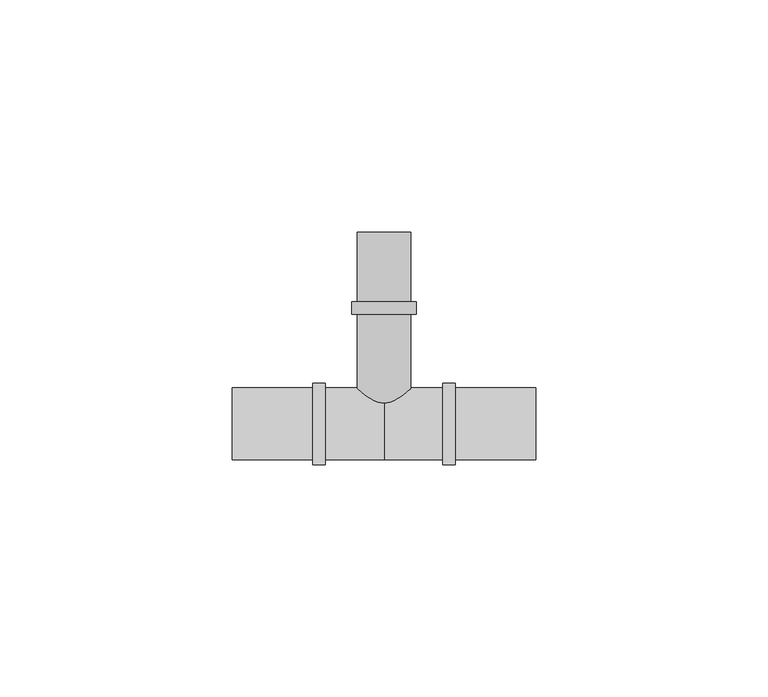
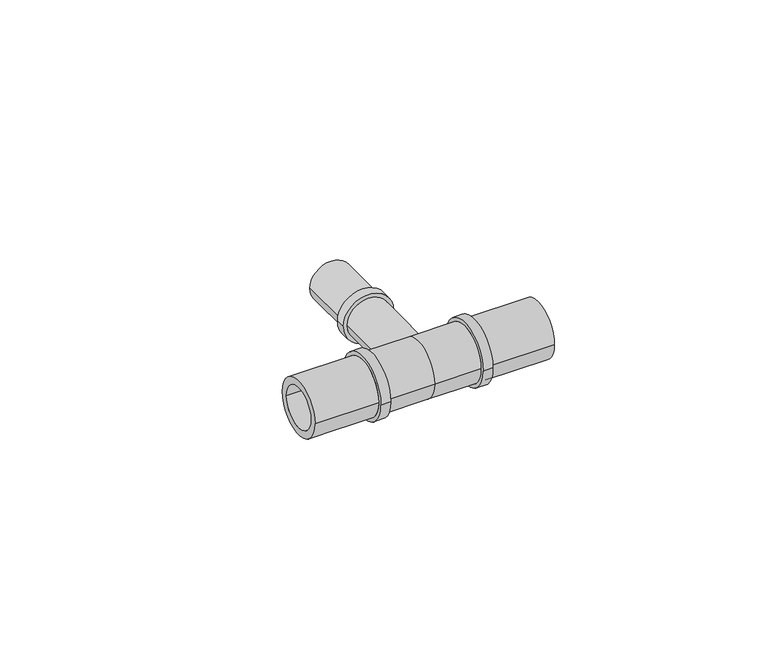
"""IFC4 building model written with IfcOpenShell, lengths in millimetres: pipe fitting geometry, FASTLOC_T-piece_LX : FSL T-Piece LX PL."""

from ifc_helpers import new_model, si_unit, frame, origin, place, context, project, spatial, polyline, circle_curve, source, transform, mapped, element, save
from ifc_brep_helpers import plane_surface, cylinder_surface, revolved_surface, advanced_brep


def pipe_fitting_790cff28(model_context):
    return source(origin(), model_context, "Body", "AdvancedBrep", [
        advanced_brep(
        [(3.95, 41.3, 0.0), (-3.95, 41.3, 0.0), (-3.95, 0.0, 0.0), (3.95, 0.0, 0.0), (5.8, 0.0, 0.0), (-5.8, 0.0, 0.0), (-5.8, 23.59, 0.0), (5.8, 23.59, 0.0), (6.9, 23.59, 0.0), (-6.9, 23.59, 0.0), (-6.9, 26.3, 0.0), (6.9, 26.3, 0.0), (5.8, 26.3, 0.0), (-5.8, 26.3, 0.0), (-5.8, 41.3, 0.0), (5.8, 41.3, 0.0)],
        [
            (0, 1, circle_curve(frame((0.0, 41.3, 0.0), z_axis=(0.0, 1.0, 0.0), x_axis=(-1.0, 0.0, 0.0)), 3.95)),
            (1, 2),
            (2, 3, circle_curve(frame((0.0, 0.0, 0.0), z_axis=(0.0, -1.0, 0.0), x_axis=(-1.0, 0.0, 0.0)), 3.95)),
            (3, 0),
            (4, 5, circle_curve(frame((0.0, 0.0, 0.0), z_axis=(0.0, 1.0, 0.0), x_axis=(-1.0, 0.0, 0.0)), 5.8)),
            (5, 6),
            (6, 7, circle_curve(frame((0.0, 23.59, 0.0), z_axis=(0.0, -1.0, 0.0), x_axis=(-1.0, 0.0, 0.0)), 5.8)),
            (7, 4),
            (8, 9, circle_curve(frame((0.0, 23.59, 0.0), z_axis=(0.0, 1.0, 0.0), x_axis=(-1.0, 0.0, 0.0)), 6.9)),
            (9, 10),
            (10, 11, circle_curve(frame((0.0, 26.3, 0.0), z_axis=(0.0, -1.0, 0.0), x_axis=(-1.0, 0.0, 0.0)), 6.9)),
            (11, 8),
            (12, 13, circle_curve(frame((0.0, 26.3, 0.0), z_axis=(0.0, 1.0, 0.0), x_axis=(-1.0, 0.0, 0.0)), 5.8)),
            (13, 14),
            (14, 15, circle_curve(frame((0.0, 41.3, 0.0), z_axis=(0.0, -1.0, 0.0), x_axis=(-1.0, 0.0, 0.0)), 5.8)),
            (15, 12),
            (1, 0, circle_curve(frame((0.0, 41.3, 0.0), z_axis=(0.0, 1.0, 0.0), x_axis=(1.0, 0.0, 0.0)), 3.95)),
            (3, 2, circle_curve(frame((0.0, 0.0, 0.0), z_axis=(0.0, -1.0, 0.0), x_axis=(1.0, 0.0, 0.0)), 3.95)),
            (4, 5, circle_curve(frame((0.0, 0.0, 0.0), z_axis=(0.0, -1.0, 0.0), x_axis=(1.0, 0.0, 0.0)), 5.8)),
            (7, 6, circle_curve(frame((0.0, 23.59, 0.0), z_axis=(0.0, -1.0, 0.0), x_axis=(1.0, 0.0, 0.0)), 5.8)),
            (8, 9, circle_curve(frame((0.0, 23.59, 0.0), z_axis=(0.0, -1.0, 0.0), x_axis=(1.0, 0.0, 0.0)), 6.9)),
            (11, 10, circle_curve(frame((0.0, 26.3, 0.0), z_axis=(0.0, -1.0, 0.0), x_axis=(1.0, 0.0, 0.0)), 6.9)),
            (12, 13, circle_curve(frame((0.0, 26.3, 0.0), z_axis=(0.0, -1.0, 0.0), x_axis=(1.0, 0.0, 0.0)), 5.8)),
            (15, 14, circle_curve(frame((0.0, 41.3, 0.0), z_axis=(0.0, -1.0, 0.0), x_axis=(1.0, 0.0, 0.0)), 5.8)),
        ],
        [
            revolved_surface(polyline([(-3.95, 0.0, 0.0), (-3.95, 41.3, 0.0)]), (0.0, 0.0, 0.0), (0.0, -1.0, 0.0)),
            cylinder_surface(frame((0.0, 0.0, 0.0), z_axis=(0.0, -1.0, 0.0), x_axis=(-1.0, 0.0, 0.0)), 5.8),
            cylinder_surface(frame((0.0, 0.0, 0.0), z_axis=(0.0, -1.0, 0.0), x_axis=(-1.0, 0.0, 0.0)), 6.9),
            revolved_surface(polyline([(3.95, 0.0, 0.0), (3.95, 41.3, 0.0)]), (0.0, 0.0, 0.0), (0.0, -1.0, 0.0)),
            plane_surface(frame((0.0, 0.0, 0.0), z_axis=(0.0, -1.0, 0.0), x_axis=(1.0, 0.0, 0.0))),
            cylinder_surface(frame((0.0, 0.0, 0.0), z_axis=(0.0, -1.0, 0.0), x_axis=(1.0, 0.0, 0.0)), 5.8),
            plane_surface(frame((0.0, 23.59, 0.0), z_axis=(0.0, -1.0, 0.0), x_axis=(1.0, 0.0, 0.0))),
            cylinder_surface(frame((0.0, 0.0, 0.0), z_axis=(0.0, -1.0, 0.0), x_axis=(1.0, 0.0, 0.0)), 6.9),
            plane_surface(frame((0.0, 26.3, 0.0), z_axis=(0.0, 1.0, 0.0), x_axis=(1.0, 0.0, 0.0))),
            plane_surface(frame((0.0, 41.3, 0.0), z_axis=(0.0, 1.0, 0.0), x_axis=(1.0, 0.0, 0.0))),
        ],
        [
            (0, [[1, 2, 3, 4]]),
            (1, [[5, 6, 7, 8]]),
            (2, [[9, 10, 11, 12]]),
            (1, [[13, 14, 15, 16]]),
            (3, [[17, -4, 18, -2]]),
            (4, [[19, -5], [-18, -3]]),
            (5, [[-19, -8, 20, -6]]),
            (6, [[21, -9], [-20, -7]]),
            (7, [[-21, -12, 22, -10]]),
            (8, [[-22, -11], [23, -13]]),
            (5, [[-23, -16, 24, -14]]),
            (9, [[-24, -15], [-17, -1]]),
        ],
    ),
        advanced_brep(
        [(0.0, 7.75, 0.0), (0.0, -7.75, 0.0), (-12.63, -7.75, 0.0), (-12.63, 7.75, 0.0), (12.63, 7.75, 0.0), (12.63, -7.75, 0.0), (15.3, 8.8, 0.0), (15.3, -8.8, 0.0), (12.63, -8.8, 0.0), (12.63, 8.8, 0.0), (32.7, 7.75, 0.0), (32.7, -7.75, 0.0), (15.3, -7.75, 0.0), (15.3, 7.75, 0.0), (-15.3, 7.75, 0.0), (-15.3, -7.75, 0.0), (-32.7, -7.75, 0.0), (-32.7, 7.75, 0.0), (-12.63, 8.8, 0.0), (-12.63, -8.8, 0.0), (-15.3, -8.8, 0.0), (-15.3, 8.8, 0.0), (32.7, -5.75, 0.0), (32.7, 5.75, 0.0), (-32.7, 5.75, 0.0), (-32.7, -5.75, 0.0), (0.0, 5.75, 0.0), (0.0, -5.75, 0.0)],
        [
            (0, 1, circle_curve(frame((0.0, 0.0, 0.0), z_axis=(-1.0, 0.0, 0.0), x_axis=(0.0, -1.0, 0.0)), 7.75)),
            (1, 2),
            (2, 3, circle_curve(frame((-12.63, 0.0, 0.0), z_axis=(1.0, 0.0, 0.0), x_axis=(0.0, -1.0, 0.0)), 7.75)),
            (3, 0),
            (4, 5, circle_curve(frame((12.63, 0.0, 0.0), z_axis=(-1.0, 0.0, 0.0), x_axis=(0.0, -1.0, 0.0)), 7.75)),
            (5, 1),
            (0, 4),
            (6, 7, circle_curve(frame((15.3, 0.0, 0.0), z_axis=(-1.0, 0.0, 0.0), x_axis=(0.0, -1.0, 0.0)), 8.8)),
            (7, 8),
            (8, 9, circle_curve(frame((12.63, 0.0, 0.0), z_axis=(1.0, 0.0, 0.0), x_axis=(0.0, -1.0, 0.0)), 8.8)),
            (9, 6),
            (10, 11, circle_curve(frame((32.7, 0.0, 0.0), z_axis=(-1.0, 0.0, 0.0), x_axis=(0.0, -1.0, 0.0)), 7.75)),
            (11, 12),
            (12, 13, circle_curve(frame((15.3, 0.0, 0.0), z_axis=(1.0, 0.0, 0.0), x_axis=(0.0, -1.0, 0.0)), 7.75)),
            (13, 10),
            (14, 15, circle_curve(frame((-15.3, 0.0, 0.0), z_axis=(-1.0, 0.0, 0.0), x_axis=(0.0, -1.0, 0.0)), 7.75)),
            (15, 16),
            (16, 17, circle_curve(frame((-32.7, 0.0, 0.0), z_axis=(1.0, 0.0, 0.0), x_axis=(0.0, -1.0, 0.0)), 7.75)),
            (17, 14),
            (18, 19, circle_curve(frame((-12.63, 0.0, 0.0), z_axis=(-1.0, 0.0, 0.0), x_axis=(0.0, -1.0, 0.0)), 8.8)),
            (19, 20),
            (20, 21, circle_curve(frame((-15.3, 0.0, 0.0), z_axis=(1.0, 0.0, 0.0), x_axis=(0.0, -1.0, 0.0)), 8.8)),
            (21, 18),
            (18, 19, circle_curve(frame((-12.63, 0.0, 0.0), z_axis=(1.0, 0.0, 0.0), x_axis=(0.0, 1.0, 0.0)), 8.8)),
            (2, 3, circle_curve(frame((-12.63, 0.0, 0.0), z_axis=(-1.0, 0.0, 0.0), x_axis=(0.0, 1.0, 0.0)), 7.75)),
            (1, 0, circle_curve(frame((0.0, 0.0, 0.0), z_axis=(-1.0, 0.0, 0.0), x_axis=(0.0, 1.0, 0.0)), 7.75)),
            (5, 4, circle_curve(frame((12.63, 0.0, 0.0), z_axis=(-1.0, 0.0, 0.0), x_axis=(0.0, 1.0, 0.0)), 7.75)),
            (8, 9, circle_curve(frame((12.63, 0.0, 0.0), z_axis=(-1.0, 0.0, 0.0), x_axis=(0.0, 1.0, 0.0)), 8.8)),
            (7, 6, circle_curve(frame((15.3, 0.0, 0.0), z_axis=(-1.0, 0.0, 0.0), x_axis=(0.0, 1.0, 0.0)), 8.8)),
            (12, 13, circle_curve(frame((15.3, 0.0, 0.0), z_axis=(-1.0, 0.0, 0.0), x_axis=(0.0, 1.0, 0.0)), 7.75)),
            (11, 10, circle_curve(frame((32.7, 0.0, 0.0), z_axis=(-1.0, 0.0, 0.0), x_axis=(0.0, 1.0, 0.0)), 7.75)),
            (22, 23, circle_curve(frame((32.7, 0.0, 0.0), z_axis=(-1.0, 0.0, 0.0), x_axis=(0.0, 1.0, 0.0)), 5.75)),
            (23, 22, circle_curve(frame((32.7, 0.0, 0.0), z_axis=(-1.0, 0.0, 0.0), x_axis=(0.0, -1.0, 0.0)), 5.75)),
            (16, 17, circle_curve(frame((-32.7, 0.0, 0.0), z_axis=(-1.0, 0.0, 0.0), x_axis=(0.0, 1.0, 0.0)), 7.75)),
            (24, 25, circle_curve(frame((-32.7, 0.0, 0.0), z_axis=(1.0, 0.0, 0.0), x_axis=(0.0, 1.0, 0.0)), 5.75)),
            (25, 24, circle_curve(frame((-32.7, 0.0, 0.0), z_axis=(1.0, 0.0, 0.0), x_axis=(0.0, -1.0, 0.0)), 5.75)),
            (15, 14, circle_curve(frame((-15.3, 0.0, 0.0), z_axis=(-1.0, 0.0, 0.0), x_axis=(0.0, 1.0, 0.0)), 7.75)),
            (20, 21, circle_curve(frame((-15.3, 0.0, 0.0), z_axis=(-1.0, 0.0, 0.0), x_axis=(0.0, 1.0, 0.0)), 8.8)),
            (26, 27, circle_curve(frame((0.0, 0.0, 0.0), z_axis=(-1.0, 0.0, 0.0), x_axis=(0.0, -1.0, 0.0)), 5.75)),
            (27, 22),
            (23, 26),
            (25, 27),
            (26, 24),
            (27, 26, circle_curve(frame((0.0, 0.0, 0.0), z_axis=(-1.0, 0.0, 0.0), x_axis=(0.0, 1.0, 0.0)), 5.75)),
        ],
        [
            cylinder_surface(frame((0.0, 0.0, 0.0), z_axis=(1.0, 0.0, 0.0), x_axis=(0.0, -1.0, 0.0)), 7.75),
            cylinder_surface(frame((0.0, 0.0, 0.0), z_axis=(1.0, 0.0, 0.0), x_axis=(0.0, -1.0, 0.0)), 8.8),
            plane_surface(frame((-12.63, 0.0, 0.0), z_axis=(1.0, 0.0, 0.0), x_axis=(0.0, 1.0, 0.0))),
            cylinder_surface(frame((0.0, 0.0, 0.0), z_axis=(1.0, 0.0, 0.0), x_axis=(0.0, 1.0, 0.0)), 7.75),
            plane_surface(frame((12.63, 0.0, 0.0), z_axis=(-1.0, 0.0, 0.0), x_axis=(0.0, 1.0, 0.0))),
            cylinder_surface(frame((0.0, 0.0, 0.0), z_axis=(1.0, 0.0, 0.0), x_axis=(0.0, 1.0, 0.0)), 8.8),
            plane_surface(frame((15.3, 0.0, 0.0), z_axis=(1.0, 0.0, 0.0), x_axis=(0.0, 1.0, 0.0))),
            plane_surface(frame((32.7, 0.0, 0.0), z_axis=(1.0, 0.0, 0.0), x_axis=(0.0, 1.0, 0.0))),
            plane_surface(frame((-32.7, 0.0, 0.0), z_axis=(-1.0, 0.0, 0.0), x_axis=(0.0, 1.0, 0.0))),
            plane_surface(frame((-15.3, 0.0, 0.0), z_axis=(-1.0, 0.0, 0.0), x_axis=(0.0, 1.0, 0.0))),
            revolved_surface(polyline([(32.7, -5.75, 0.0), (0.0, -5.75, 0.0)]), (0.0, 0.0, 0.0), (1.0, 0.0, 0.0)),
            revolved_surface(polyline([(0.0, -5.75, 0.0), (-32.7, -5.75, 0.0)]), (0.0, 0.0, 0.0), (1.0, 0.0, 0.0)),
            revolved_surface(polyline([(32.7, 5.75, 0.0), (0.0, 5.75, 0.0)]), (0.0, 0.0, 0.0), (1.0, 0.0, 0.0)),
            revolved_surface(polyline([(0.0, 5.75, 0.0), (-32.7, 5.75, 0.0)]), (0.0, 0.0, 0.0), (1.0, 0.0, 0.0)),
        ],
        [
            (0, [[1, 2, 3, 4]]),
            (0, [[5, 6, -1, 7]]),
            (1, [[8, 9, 10, 11]]),
            (0, [[12, 13, 14, 15]]),
            (0, [[16, 17, 18, 19]]),
            (1, [[20, 21, 22, 23]]),
            (2, [[24, -20], [25, -3]]),
            (3, [[26, -4, -25, -2]]),
            (3, [[27, -7, -26, -6]]),
            (4, [[28, -10], [-27, -5]]),
            (5, [[29, -11, -28, -9]]),
            (6, [[-29, -8], [30, -14]]),
            (3, [[31, -15, -30, -13]]),
            (7, [[-31, -12], [32, 33]]),
            (8, [[34, -18], [35, 36]]),
            (3, [[37, -19, -34, -17]]),
            (9, [[38, -22], [-37, -16]]),
            (5, [[-24, -23, -38, -21]]),
            (10, [[39, 40, -33, 41]]),
            (11, [[-36, 42, -39, 43]]),
            (12, [[44, -41, -32, -40]]),
            (13, [[-35, -43, -44, -42]]),
        ],
    ),
    ])


if __name__ == "__main__":
    model = new_model("IFC4")
    model_context = context("Model", 3, world=origin())
    ifc_project = project(units=[si_unit("LENGTHUNIT", "METRE", prefix="MILLI")], contexts=[model_context])
    site = spatial("IfcSite", under=ifc_project)
    building = spatial("IfcBuilding", under=site)
    placement = place(None, origin())
    pipe_fitting_shape = pipe_fitting_790cff28(model_context)
    element("IfcPipeFitting", 1, ObjectType="FASTLOC_T-piece_LX : FSL T-Piece LX PL", at=placement, inside=building, context=model_context, shape_type="MappedRepresentation", body=[
        mapped(pipe_fitting_shape, transform((0.0, 0.0, 0.0), x_axis=(1.0, 0.0, 0.0), y_axis=(0.0, 1.0, 0.0), z_axis=(0.0, 0.0, 1.0))),
    ])
    save(model, "model.ifc")
